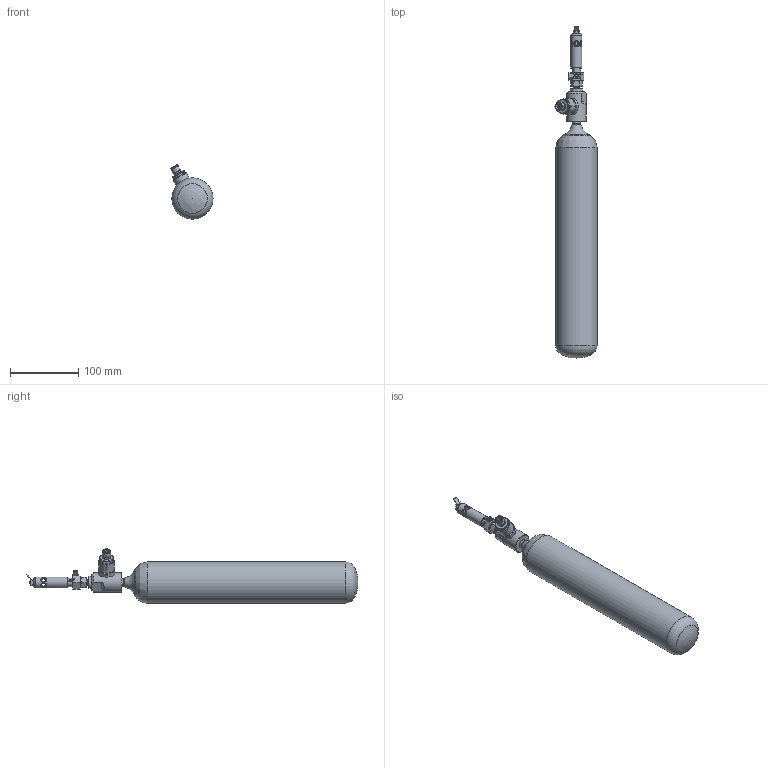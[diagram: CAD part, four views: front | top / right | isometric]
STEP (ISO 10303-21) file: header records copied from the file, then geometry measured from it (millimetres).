
FILE_DESCRIPTION(/* description */ (''),/* implementation_level */ '2;1');
FILE_NAME(/* name */ '40-057-20-32-15 - S-AMFE & R-AMFE - cylinder size 5 and pressure sensor (M12 plug).stp',/* time_stamp */ '2025-03-26T16:22:36+01:00',/* author */ ('ASc'),/* organization */ (''),/* preprocessor_version */ 'ST-DEVELOPER v19.2',/* originating_system */ 'Autodesk Inventor 2023',/* authorisation */ '');
FILE_SCHEMA (('AUTOMOTIVE_DESIGN { 1 0 10303 214 3 1 1 }'));
Length unit declared in the file: millimetre
Products named in the file (1): 40-057-20-32-15_Vereinfachen_1
Bounding box: 61.57 x 485.41 x 79.32 mm (x, y, z)
Volume: 966048.1 mm3; surface area: 80063.1 mm2
Topology: 1 solids, 1 shells, 374 faces, 974 edges, 612 vertices
Faces by surface type: bspline 167, plane 142, cylinder 31, cone 30, torus 4
Full cylindrical faces by diameter (mm): 2.9 x1, 5.7 x2, 6.5 x6, 9.4 x1, 11 x1, 11.9 x1, 12 x1, 12.5 x1, 15 x1, 16 x1, 17.5 x1, 28 x1, 60.3 x1
Entity records: 19810 total; most frequent: CARTESIAN_POINT 10963, ORIENTED_EDGE 1944, DIRECTION 1394, EDGE_CURVE 972, VERTEX_POINT 612, AXIS2_PLACEMENT_3D 501, EDGE_LOOP 404, LINE 392
